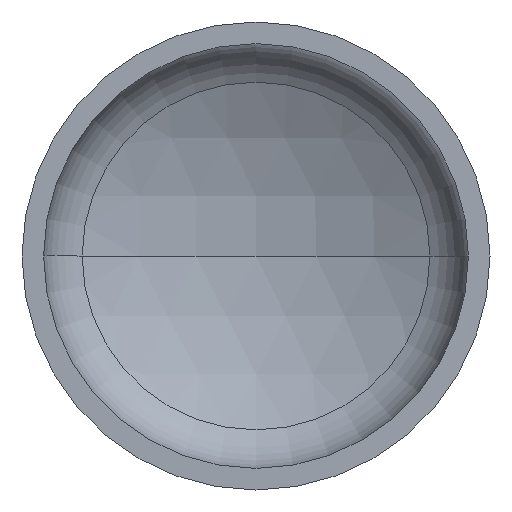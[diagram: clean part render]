
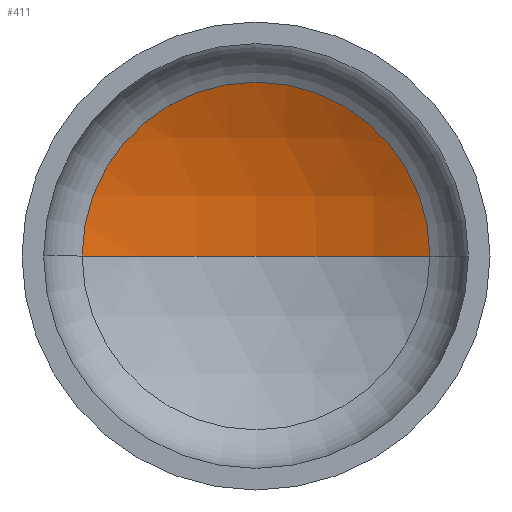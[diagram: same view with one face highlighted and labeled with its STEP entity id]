
A CAD part, front view. The second image highlights one B-rep face of the part: STEP entity #411.
In plain terms, the highlighted spherical face has radius 2080 mm.
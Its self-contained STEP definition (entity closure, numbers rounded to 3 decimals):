
#2 = AXIS2_PLACEMENT_3D ( 'NONE', #119, #150, #151 ) ;
#6 = DIRECTION ( 'NONE',  ( 0., -1., 0. ) ) ;
#11 = AXIS2_PLACEMENT_3D ( 'NONE', #172, #174, #316 ) ;
#12 = EDGE_LOOP ( 'NONE', ( #38, #342, #20 ) ) ;
#20 = ORIENTED_EDGE ( 'NONE', *, *, #104, .T. ) ;
#24 = VERTEX_POINT ( 'NONE', #300 ) ;
#38 = ORIENTED_EDGE ( 'NONE', *, *, #358, .F. ) ;
#48 = AXIS2_PLACEMENT_3D ( 'NONE', #225, #6, #284 ) ;
#78 = VERTEX_POINT ( 'NONE', #290 ) ;
#104 = EDGE_CURVE ( 'NONE', #24, #78, #261, .T. ) ;
#119 = CARTESIAN_POINT ( 'NONE',  ( 0., -1412.952, 0. ) ) ;
#120 = VERTEX_POINT ( 'NONE', #367 ) ;
#150 = DIRECTION ( 'NONE',  ( 0., 0., 1. ) ) ;
#151 = DIRECTION ( 'NONE',  ( 1., 0., 0. ) ) ;
#167 = CIRCLE ( 'NONE', #11, 2080. ) ;
#172 = CARTESIAN_POINT ( 'NONE',  ( 0., -1412.952, 0. ) ) ;
#174 = DIRECTION ( 'NONE',  ( 0., 0., -1. ) ) ;
#185 = DIRECTION ( 'NONE',  ( 0., 0., -1. ) ) ;
#203 = CARTESIAN_POINT ( 'NONE',  ( 0., -1412.952, 0. ) ) ;
#225 = CARTESIAN_POINT ( 'NONE',  ( 0., 429.274, 0. ) ) ;
#229 = DIRECTION ( 'NONE',  ( -1., 0., 0. ) ) ;
#261 = CIRCLE ( 'NONE', #48, 965.714 ) ;
#284 = DIRECTION ( 'NONE',  ( 1., 0., 0. ) ) ;
#290 = CARTESIAN_POINT ( 'NONE',  ( -965.714, 429.274, 0. ) ) ;
#300 = CARTESIAN_POINT ( 'NONE',  ( 965.714, 429.274, 0. ) ) ;
#316 = DIRECTION ( 'NONE',  ( -1., 0., 0. ) ) ;
#325 = FACE_OUTER_BOUND ( 'NONE', #12, .T. ) ;
#337 = CIRCLE ( 'NONE', #2, 2080. ) ;
#342 = ORIENTED_EDGE ( 'NONE', *, *, #346, .T. ) ;
#346 = EDGE_CURVE ( 'NONE', #120, #24, #167, .T. ) ;
#358 = EDGE_CURVE ( 'NONE', #120, #78, #337, .T. ) ;
#367 = CARTESIAN_POINT ( 'NONE',  ( 0., 667.048, 0. ) ) ;
#374 = AXIS2_PLACEMENT_3D ( 'NONE', #203, #185, #229 ) ;
#383 = SPHERICAL_SURFACE ( 'NONE', #374, 2080. ) ;
#411 = ADVANCED_FACE ( 'NONE', ( #325 ), #383, .F. ) ;
